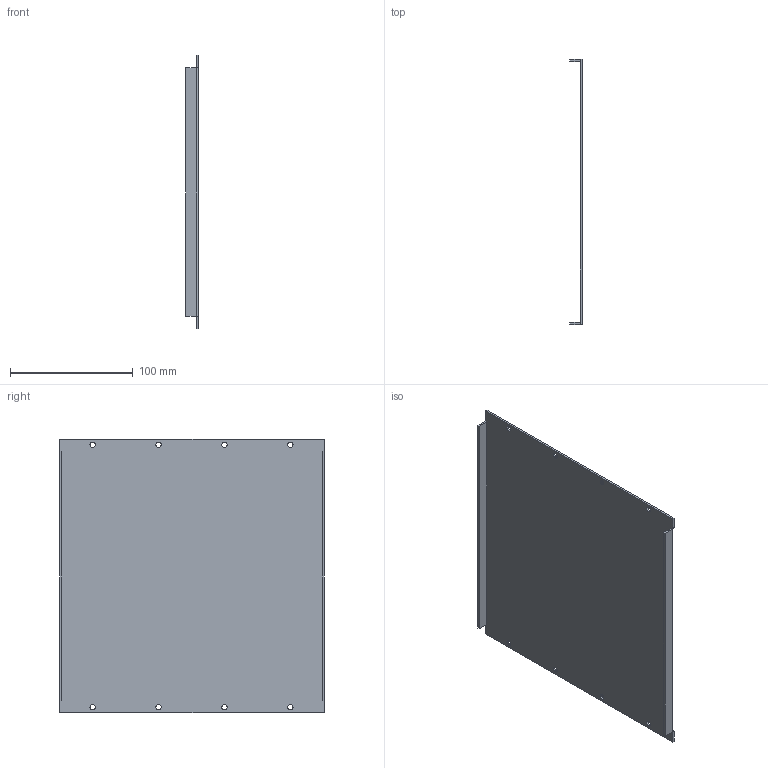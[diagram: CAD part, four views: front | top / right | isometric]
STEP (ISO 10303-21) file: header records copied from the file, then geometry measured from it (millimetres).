
FILE_DESCRIPTION(('CATIA V5 STEP Exchange'),'2;1');
FILE_NAME('C:\Users\Mike\Desktop\blank panels\4MU BLANK PANEL.stp','2018-03-03T21:32:52+00:00',('none'),('none'),'CATIA Version 5 Release 20 GA (IN-10)','CATIA V5 STEP AP214','none');
FILE_SCHEMA(('AUTOMOTIVE_DESIGN { 1 0 10303 214 1 1 1 1 }'));
Length unit declared in the file: millimetre
Products named in the file (1): 4MU BLANK PANEL
Bounding box: 10.16 x 215.39 x 222.25 mm (x, y, z)
Volume: 80466.9 mm3; surface area: 103784.9 mm2
Topology: 1 solids, 1 shells, 42 faces, 120 edges, 80 vertices
Faces by surface type: plane 20, cylinder 18, torus 4
Entity records: 1434 total; most frequent: CARTESIAN_POINT 351, ORIENTED_EDGE 240, DIRECTION 164, EDGE_CURVE 120, VERTEX_POINT 80, VECTOR 72, LINE 72, AXIS2_PLACEMENT_3D 62
